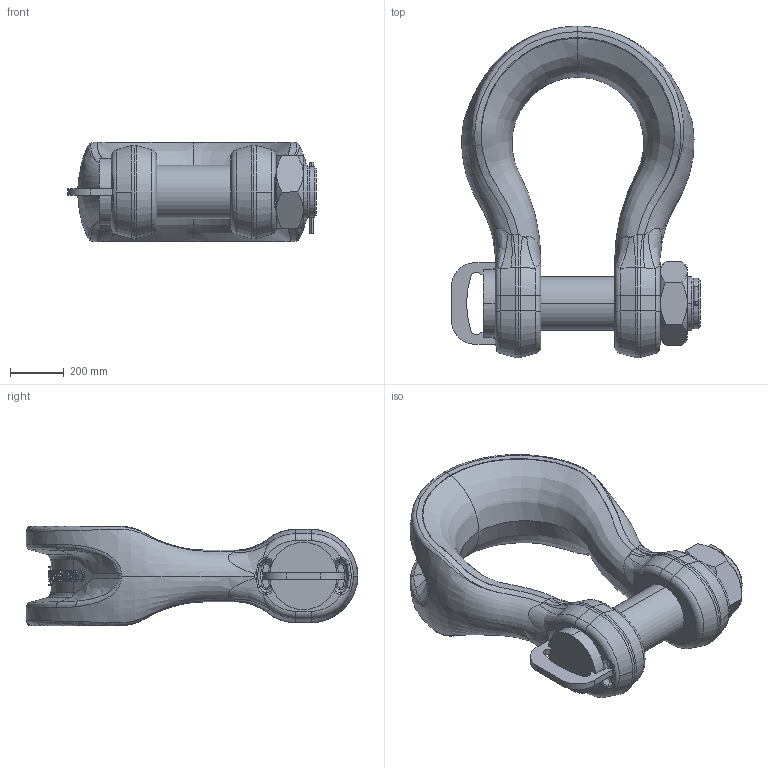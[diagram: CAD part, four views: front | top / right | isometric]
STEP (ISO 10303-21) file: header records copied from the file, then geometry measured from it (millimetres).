
FILE_DESCRIPTION(('STEP AP214'),'1');
FILE_NAME('slgpf0600.stp','2017-07-03T06:31:48',('TraceParts'),('TraceParts S.A.'),'Spatial InterOp 3D',' ',' ');
FILE_SCHEMA(('automotive_design'));
Length unit declared in the file: millimetre
Products named in the file (5): slgpf0600_1; slgpf0600_2; slgpf0600_3; slgpf0600_4; slgpf0600_5
Bounding box: 926.5 x 1233.5 x 370.78 mm (x, y, z)
Volume: 125981265.7 mm3; surface area: 3378306.4 mm2
Topology: 5 solids, 5 shells, 603 faces, 1586 edges, 1016 vertices
Faces by surface type: bspline 226, plane 170, cylinder 77, torus 70, cone 60
Entity records: 154854 total; most frequent: CARTESIAN_POINT 136615, ORIENTED_EDGE 3164, DIRECTION 2143, EDGE_CURVE 1582, VERTEX_POINT 1016, AXIS2_PLACEMENT_3D 801, EDGE_LOOP 638, PRESENTATION_STYLE_ASSIGNMENT 613
